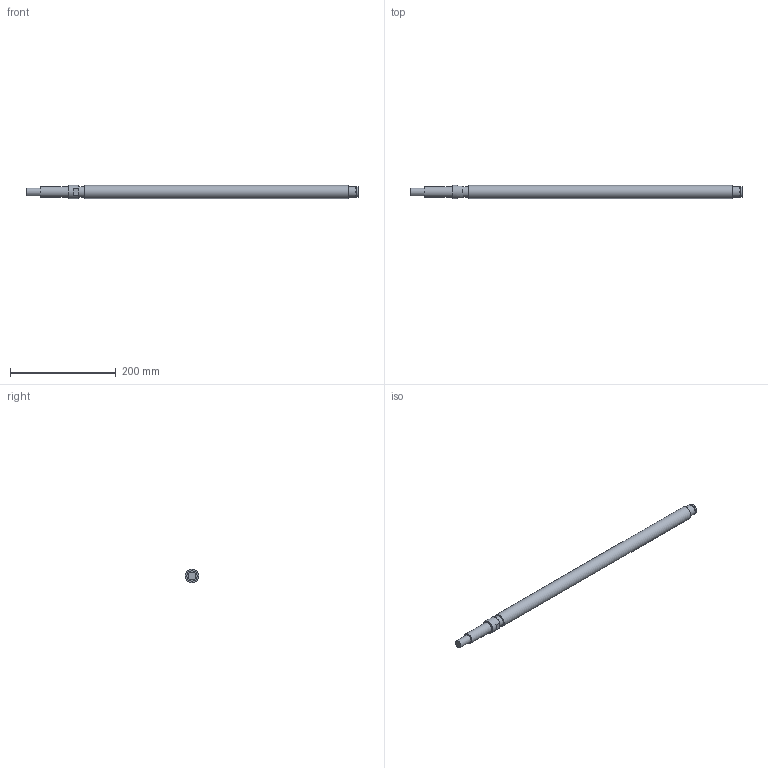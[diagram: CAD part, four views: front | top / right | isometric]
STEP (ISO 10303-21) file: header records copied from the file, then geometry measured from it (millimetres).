
FILE_DESCRIPTION((''),'2;1');
FILE_NAME('D:\製品 (図面)\カタログ用3D\ネジ関連\STEP形式\JK\JK25.stp','2010-06-11T10:55:06',('Tsuchiya'),(''),'Autodesk Inventor 10','Autodesk Inventor 10','');
FILE_SCHEMA(('AUTOMOTIVE_DESIGN { 1 0 10303 214 1 1 1 1 }'));
Length unit declared in the file: millimetre
Products named in the file (1): JK25
Bounding box: 629 x 25 x 25 mm (x, y, z)
Volume: 285504.9 mm3; surface area: 48647.5 mm2
Topology: 1 solids, 1 shells, 21 faces, 36 edges, 24 vertices
Faces by surface type: plane 13, cylinder 8
Full cylindrical faces by diameter (mm): 15 x1, 19 x1, 20 x4, 25 x2
Entity records: 483 total; most frequent: DIRECTION 90, CARTESIAN_POINT 72, ORIENTED_EDGE 54, AXIS2_PLACEMENT_3D 41, EDGE_LOOP 36, EDGE_CURVE 27, VERTEX_POINT 23, FACE_OUTER_BOUND 21
